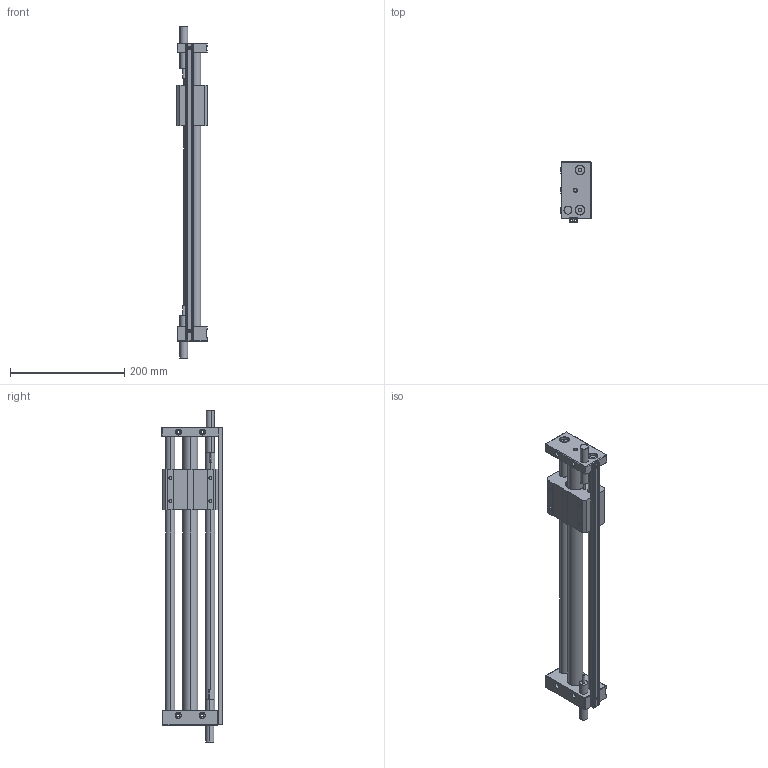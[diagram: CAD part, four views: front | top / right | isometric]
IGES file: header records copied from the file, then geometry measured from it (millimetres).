
Start section: SolidWorks IGES file using analytic representation for surfaces
Global section: file name: D:\Documents de SGA\Pieces 2D et 3D\GRU\iges\GRU 25.400.IGS; native system: SolidWorks 2010; preprocessor: SolidWorks 2010; author: SGA; date: 111216.111511; units: millimetre
Bounding box: 54 x 105.73 x 580.42 mm (x, y, z)
Surface area: 218711.1 mm2 (no closed solid volume)
Topology: 0 solids, 0 shells, 294 faces, 4396 edges, 4396 vertices
Faces by surface type: revolution 158, bspline 136
